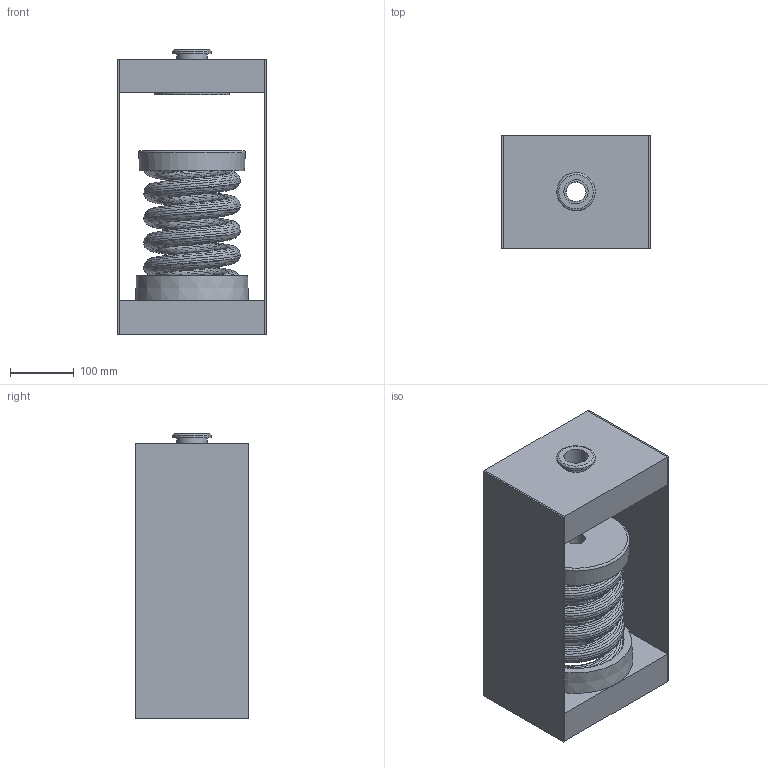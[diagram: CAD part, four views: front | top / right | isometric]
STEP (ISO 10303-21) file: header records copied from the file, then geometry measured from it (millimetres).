
FILE_DESCRIPTION(/* description */ (''),/* implementation_level */ '2;1');
FILE_NAME(/* name */ 'C:\001_Work\Designs\HANGER BOXES\30N 100 SERIES\30N-112-113\30N-113.stp',/* time_stamp */ '2015-06-01T11:39:17-04:00',/* author */ ('rramoutar'),/* organization */ ('Mason Industries Inc.'),/* preprocessor_version */ 'ST-DEVELOPER v15.2',/* originating_system */ 'Autodesk Inventor 2014',/* authorisation */ '');
FILE_SCHEMA (('AUTOMOTIVE_DESIGN { 1 0 10303 214 3 1 1 }'));
Length unit declared in the file: inch
Products named in the file (1): 30N-113
Bounding box: 234.95 x 177.8 x 446.31 mm (x, y, z)
Volume: 2621193.7 mm3; surface area: 1226389.4 mm2
Topology: 11 solids, 11 shells, 126 faces, 271 edges, 181 vertices
Faces by surface type: plane 64, cylinder 34, bspline 22, cone 4, torus 2
Full cylindrical faces by diameter (mm): 30.162 x1, 31.75 x1, 38.1 x2, 47.625 x4, 60.325 x1, 98.425 x1, 103.188 x1, 104.775 x2, 107.95 x4, 117.475 x1, 122.237 x2, 150.812 x1, 155.575 x1, 158.75 x2
Entity records: 13581 total; most frequent: CARTESIAN_POINT 10834, DIRECTION 480, ORIENTED_EDGE 476, EDGE_CURVE 238, EDGE_LOOP 188, AXIS2_PLACEMENT_3D 185, VERTEX_POINT 178, STYLED_ITEM 137
